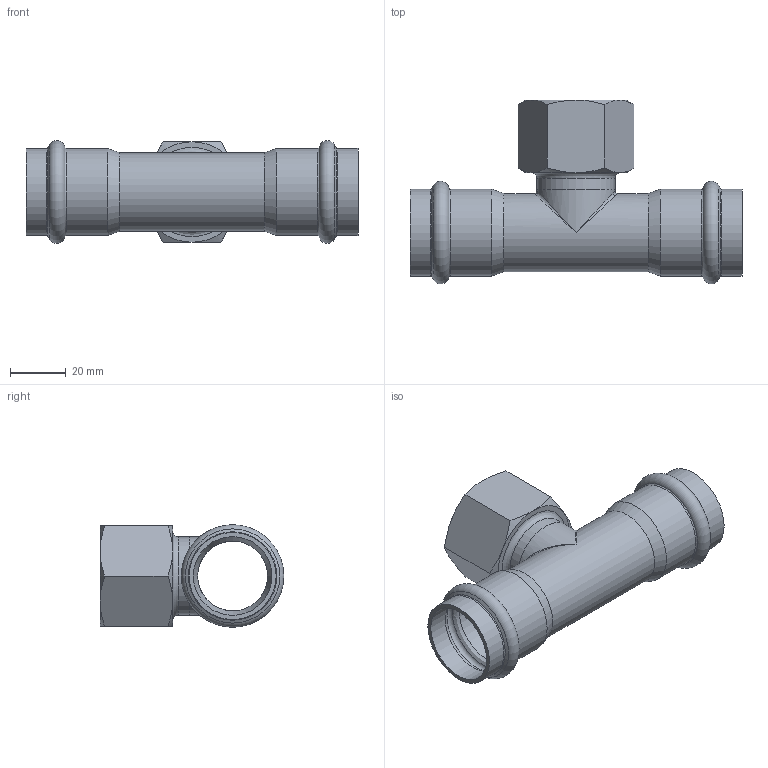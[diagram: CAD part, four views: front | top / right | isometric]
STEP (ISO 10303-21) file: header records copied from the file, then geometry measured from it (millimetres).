
FILE_DESCRIPTION((''),'2;1');
FILE_NAME('C:\STEP-Dateien NiroSan\28\69130G28128(2).stp','2013-06-04T15:16:30',('Lohse'),(''),'Autodesk Inventor 2009','Autodesk Inventor 2009','');
FILE_SCHEMA(('AUTOMOTIVE_DESIGN { 1 0 10303 214 1 1 1 1 }'));
Length unit declared in the file: millimetre
Products named in the file (3): 69130G28128(2); LM_6913028(1); IG281(1)
Assembly tree (2 placements, depth 2):
  69130G28128(2)
    LM_6913028(1)
    IG281(1)
Bounding box: 119 x 65.89 x 36.79 mm (x, y, z)
Volume: 28722.1 mm3; surface area: 30313.9 mm2
Topology: 2 solids, 2 shells, 66 faces, 147 edges, 79 vertices
Faces by surface type: cone 21, bspline 16, cylinder 13, plane 12, torus 4
Full cylindrical faces by diameter (mm): 25 x2, 28 x3, 28.2 x4, 31.2 x4
Entity records: 2581 total; most frequent: CARTESIAN_POINT 1378, DIRECTION 240, ORIENTED_EDGE 184, AXIS2_PLACEMENT_3D 117, EDGE_LOOP 112, EDGE_CURVE 92, VERTEX_POINT 70, FACE_OUTER_BOUND 66
